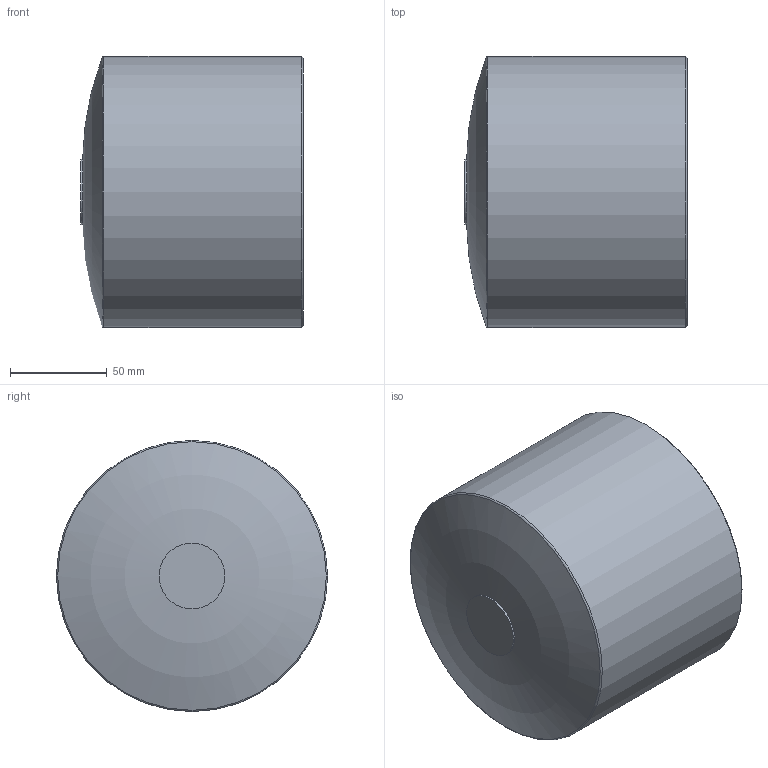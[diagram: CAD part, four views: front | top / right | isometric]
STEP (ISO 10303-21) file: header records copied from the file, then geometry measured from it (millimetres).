
FILE_DESCRIPTION(/* description */ ('Unknown'),/* implementation_level */ '2;1');
FILE_NAME(/* name */ 'CAP140C',/* time_stamp */ '2021-02-04T09:43:38+01:00',/* author */ ('Unknown'),/* organization */ ('Unknown'),/* preprocessor_version */ 'ST-DEVELOPER v16.7',/* originating_system */ 'Solid Edge',/* authorisation */ 'Unknown');
FILE_SCHEMA (('AUTOMOTIVE_DESIGN {1 0 10303 214 3 1 1}'));
Length unit declared in the file: millimetre
Products named in the file (1): CAP140C
Bounding box: 115 x 140 x 140 mm (x, y, z)
Volume: 708022.7 mm3; surface area: 109111.4 mm2
Topology: 1 solids, 1 shells, 11 faces, 21 edges, 12 vertices
Faces by surface type: torus 4, cylinder 3, cone 2, plane 2
Full cylindrical faces by diameter (mm): 34 x1, 114.6 x1, 140 x1
Entity records: 248 total; most frequent: DIRECTION 44, CARTESIAN_POINT 33, AXIS2_PLACEMENT_3D 22, FACE_BOUND 21, ORIENTED_EDGE 20, EDGE_LOOP 20, VERTEX_POINT 11, ADVANCED_FACE 11
